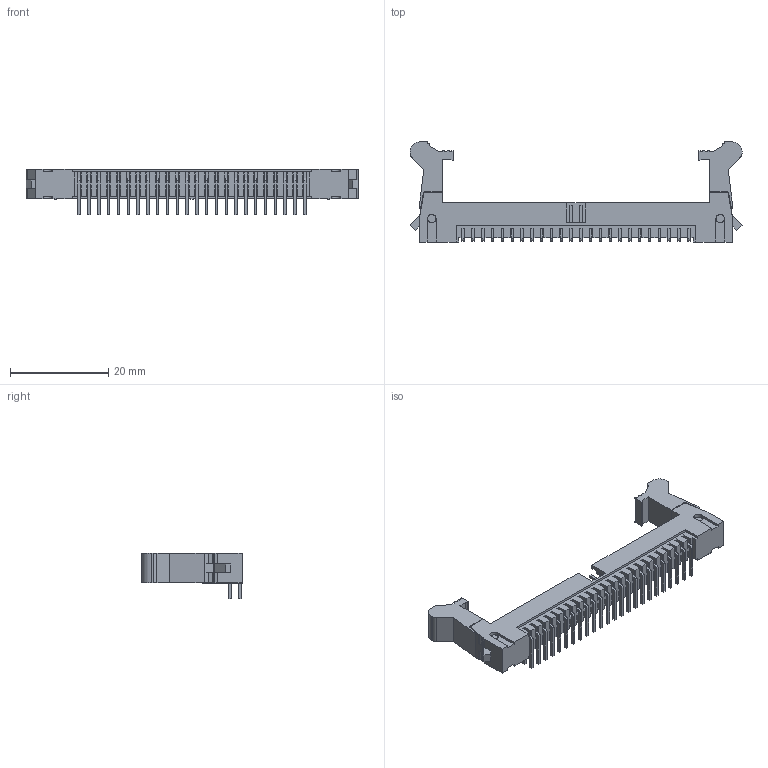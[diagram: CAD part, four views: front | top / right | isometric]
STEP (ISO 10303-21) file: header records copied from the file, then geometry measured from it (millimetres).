
FILE_DESCRIPTION (( 'STEP AP203' ), '1' );
FILE_NAME ('HC-NJ200-2-24-W-20.5-XX-X-L (2.00 籟褒 俔渀 酗嫉諶-HCTL).STEP', '2026-02-05T10:05:23', ( '' ), ( '' ), 'SwSTEP 2.0', 'SolidWorks 2025', '' );
FILE_SCHEMA (( 'CONFIG_CONTROL_DESIGN' ));
Length unit declared in the file: millimetre
Products named in the file (1): HC-NJ200-2-24-W-20.5-XX-X-L (2.00 牛角 弯针 长耳扣-HCTL)
Bounding box: 67.68 x 20.42 x 9.2 mm (x, y, z)
Volume: 2467.3 mm3; surface area: 4525.1 mm2
Topology: 1 solids, 1 shells, 1240 faces, 3414 edges, 2276 vertices
Faces by surface type: plane 1084, cylinder 156
Entity records: 38975 total; most frequent: CARTESIAN_POINT 6931, ORIENTED_EDGE 6828, DIRECTION 6216, EDGE_CURVE 3414, LINE 3094, VECTOR 3094, VERTEX_POINT 2276, AXIS2_PLACEMENT_3D 1561
